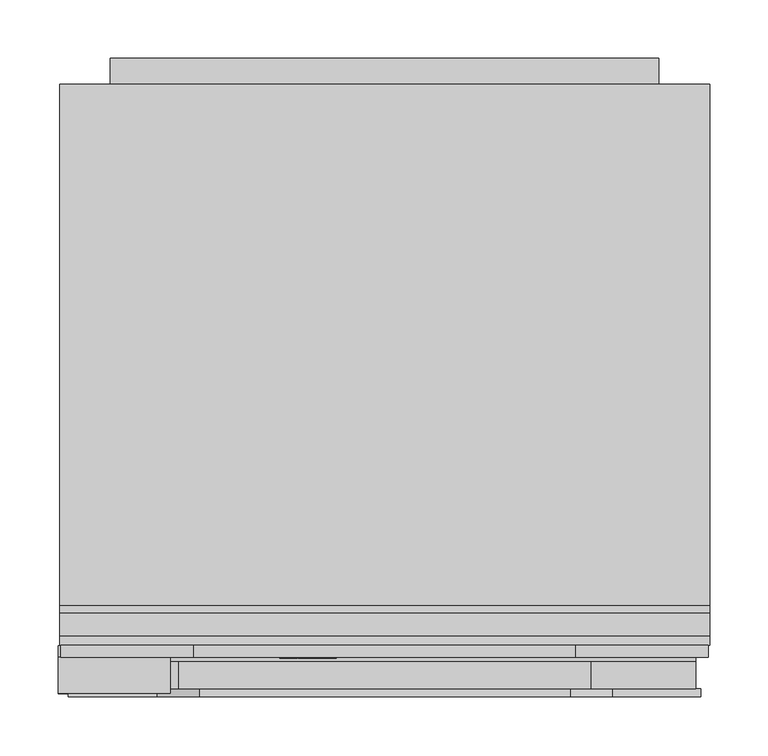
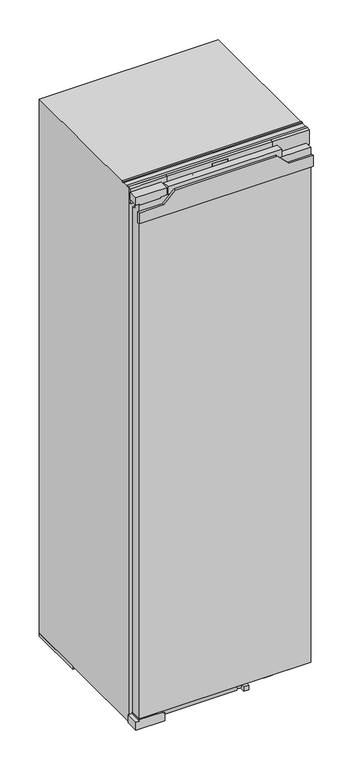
"""IFC4 building model written with IfcOpenShell, lengths in millimetres: proxy geometry, 12444960_CH_K7778C_LI : 36777801_CH_12444960_K7778C_LI."""

import ifcopenshell
import ifcopenshell.guid

model = None  # the IFC model being written
_history = None  # IfcOwnerHistory: only IFC2X3 demands one
_inside = {}  # id of a spatial element -> (the spatial element, [elements in it])
_under = {}  # id of a project, library or spatial element -> (it, [spatial elements below it])
_declared = {}  # id of a project -> (the project, [libraries it declares])
_typed = {}  # id of a type object -> (the type object, [elements of that type])
_made_of = {}  # id of a material, layer set ... -> (it, [elements and type objects made of it])


def new_model(schema):
    """Start an empty IFC model of exactly this schema.

    Asked for "IFC4X3", IfcOpenShell would pick the latest addendum, in which some entities
    have other attributes; the version numbers below select the first issue.
    IFC2X3 requires an IfcOwnerHistory on every rooted entity: one is made here for all.
    """
    global model, _history
    if schema == "IFC4X3":
        model = ifcopenshell.file(schema_version=(4, 3, 0, 0))
    else:
        model = ifcopenshell.file(schema=schema)
    _inside.clear()
    _under.clear()
    _declared.clear()
    _typed.clear()
    _made_of.clear()
    _history = None
    if model.schema == "IFC2X3":
        org = make("IfcOrganization", Name="unknown")
        user = make(
            "IfcPersonAndOrganization",
            ThePerson=make("IfcPerson", FamilyName="unknown"),
            TheOrganization=org,
        )
        app = make(
            "IfcApplication",
            ApplicationDeveloper=org,
            Version="unknown",
            ApplicationFullName="unknown",
            ApplicationIdentifier="unknown",
        )
        _history = make(
            "IfcOwnerHistory",
            OwningUser=user,
            OwningApplication=app,
            ChangeAction="ADDED",
            CreationDate=0,
        )
    return model


def make(cls, **values):
    """One entity of the class cls with the attributes given. An attribute that is None is left unset."""
    return model.create_entity(
        cls, **{name: value for name, value in values.items() if value is not None}
    )


def rooted(cls, **values):
    """An entity with a GlobalId (a new one), such as an element, a storey or a relation."""
    return make(cls, GlobalId=ifcopenshell.guid.new(), OwnerHistory=_history, **values)


def si_unit(unit_type, name, prefix=None):
    """IfcSIUnit, for example si_unit("LENGTHUNIT", "METRE", prefix="MILLI")."""
    return make("IfcSIUnit", UnitType=unit_type, Prefix=prefix, Name=name)


def assignment(units):
    """IfcUnitAssignment: the units of a project."""
    return None if units is None else make("IfcUnitAssignment", Units=units)


def point(xyz):
    """IfcCartesianPoint."""
    return None if xyz is None else make("IfcCartesianPoint", Coordinates=xyz)


def direction(xyz):
    """IfcDirection."""
    return None if xyz is None else make("IfcDirection", DirectionRatios=xyz)


def frame(location, z_axis=None, x_axis=None):
    """IfcAxis2Placement3D, a coordinate frame: its origin and axes. An axis left out is left unset."""
    return make(
        "IfcAxis2Placement3D",
        Location=point(location),
        Axis=direction(z_axis),
        RefDirection=direction(x_axis),
    )


def frame_2d(location, x_axis=None):
    """IfcAxis2Placement2D, a coordinate frame in the plane: its origin and x axis."""
    return make(
        "IfcAxis2Placement2D", Location=point(location), RefDirection=direction(x_axis)
    )


def origin():
    """The frame at (0, 0, 0) with its axes left unset."""
    return frame((0.0, 0.0, 0.0))


def origin_with_axes():
    """The frame at (0, 0, 0) with the z axis (0, 0, 1) and the x axis (1, 0, 0) written out."""
    return frame((0.0, 0.0, 0.0), z_axis=(0.0, 0.0, 1.0), x_axis=(1.0, 0.0, 0.0))


def place(relative_to, where):
    """IfcLocalPlacement: puts the frame where relative to a parent placement (None: the world)."""
    return make(
        "IfcLocalPlacement", PlacementRelTo=relative_to, RelativePlacement=where
    )


def context(
    kind, dimensions, precision=None, world=None, true_north=None, identifier=None
):
    """IfcGeometricRepresentationContext, for example the 3D "Model" context."""
    return make(
        "IfcGeometricRepresentationContext",
        ContextIdentifier=identifier,
        ContextType=kind,
        CoordinateSpaceDimension=dimensions,
        Precision=precision,
        WorldCoordinateSystem=world,
        TrueNorth=true_north,
    )


def project(units=None, contexts=None):
    """IfcProject with its units and contexts."""
    return rooted(
        "IfcProject",
        Name="project",
        RepresentationContexts=contexts,
        UnitsInContext=assignment(units),
    )


def spatial(cls, under=None, at=None, **own):
    """A site, building, storey or space (cls), placed at a placement, below another one or the project."""
    s = rooted(cls, ObjectPlacement=at, **own)
    if under is not None:
        _under.setdefault(under.id(), (under, []))[1].append(s)
    return s


def polyline(points):
    """IfcPolyline through the points."""
    return make("IfcPolyline", Points=[point(p) for p in points])


def circle_curve(where, radius):
    """IfcCircle in the frame where."""
    return make("IfcCircle", Position=where, Radius=radius)


def ellipse_curve(where, semi_axis1, semi_axis2):
    """IfcEllipse in the frame where."""
    return make(
        "IfcEllipse", Position=where, SemiAxis1=semi_axis1, SemiAxis2=semi_axis2
    )


def trimmed(basis, trim1, trim2, sense, master):
    """IfcTrimmedCurve: the piece of a basis curve between two trims."""
    return make(
        "IfcTrimmedCurve",
        BasisCurve=basis,
        Trim1=trim1,
        Trim2=trim2,
        SenseAgreement=sense,
        MasterRepresentation=master,
    )


def segment(curve, same_sense, transition):
    """IfcCompositeCurveSegment."""
    return make(
        "IfcCompositeCurveSegment",
        Transition=transition,
        SameSense=same_sense,
        ParentCurve=curve,
    )


def composite_curve(segments, self_intersect=None):
    """IfcCompositeCurve: segments joined end to end."""
    return make("IfcCompositeCurve", Segments=segments, SelfIntersect=self_intersect)


def outline(outer, holes=None, kind="AREA"):
    """IfcArbitraryClosedProfileDef: a profile drawn as a closed curve; with holes, ...WithVoids."""
    if holes is None:
        return make("IfcArbitraryClosedProfileDef", ProfileType=kind, OuterCurve=outer)
    return make(
        "IfcArbitraryProfileDefWithVoids",
        ProfileType=kind,
        OuterCurve=outer,
        InnerCurves=holes,
    )


def extrude(swept, where, along, depth):
    """IfcExtrudedAreaSolid: the profile swept, set in the frame where, extruded along a direction by depth."""
    return make(
        "IfcExtrudedAreaSolid",
        SweptArea=swept,
        Position=where,
        ExtrudedDirection=direction(along),
        Depth=depth,
    )


def faces_of(points, faces, orient=None, outer=None):
    """IfcFace entities. A face is a list of loops; a loop is a list of indices into points, from 0.

    orient and outer hold one flag for each loop. By default every Orientation is true, the
    first loop of a face is its IfcFaceOuterBound and the others are IfcFaceBound.
    """
    made = []
    for i, loops in enumerate(faces):
        bounds = []
        for j, loop in enumerate(loops):
            is_outer = j == 0 if outer is None else outer[i][j]
            bounds.append(
                make(
                    "IfcFaceOuterBound" if is_outer else "IfcFaceBound",
                    Bound=make("IfcPolyLoop", Polygon=[points[k] for k in loop]),
                    Orientation=True if orient is None else orient[i][j],
                )
            )
        made.append(make("IfcFace", Bounds=bounds))
    return made


def faceted_brep(points, faces, orient=None, outer=None, voids=None):
    """IfcFacetedBrep: a solid bounded by flat faces; with voids (closed shells), ...WithVoids."""
    shared = [point(p) for p in points]
    hull = make("IfcClosedShell", CfsFaces=faces_of(shared, faces, orient, outer))
    if voids is None:
        return make("IfcFacetedBrep", Outer=hull)
    return make(
        "IfcFacetedBrepWithVoids",
        Outer=hull,
        Voids=[
            make(cls, CfsFaces=faces_of(shared, fs, o, b)) for cls, fs, o, b in voids
        ],
    )


def shape(context_of_items, identifier, shape_type, items):
    """IfcShapeRepresentation: the items that make up one representation, for example the "Body"."""
    return make(
        "IfcShapeRepresentation",
        ContextOfItems=context_of_items,
        RepresentationIdentifier=identifier,
        RepresentationType=shape_type,
        Items=items,
    )


def source(mapping_origin, context_of_items, identifier, shape_type, items):
    """IfcRepresentationMap: a shape defined once, which mapped items show again and again."""
    return make(
        "IfcRepresentationMap",
        MappingOrigin=mapping_origin,
        MappedRepresentation=shape(context_of_items, identifier, shape_type, items),
    )


def transform(
    local_origin,
    x_axis=None,
    y_axis=None,
    z_axis=None,
    scale=None,
    scale2=None,
    scale3=None,
    uniform=True,
):
    """IfcCartesianTransformationOperator3D, or its non-uniform kind. x_axis, y_axis, z_axis: its Axis1, 2, 3."""
    if uniform:
        return make(
            "IfcCartesianTransformationOperator3D",
            Axis1=direction(x_axis),
            Axis2=direction(y_axis),
            LocalOrigin=point(local_origin),
            Scale=scale,
            Axis3=direction(z_axis),
        )
    return make(
        "IfcCartesianTransformationOperator3DnonUniform",
        Axis1=direction(x_axis),
        Axis2=direction(y_axis),
        LocalOrigin=point(local_origin),
        Scale=scale,
        Axis3=direction(z_axis),
        Scale2=scale2,
        Scale3=scale3,
    )


def mapped(mapping_source, mapping_target):
    """IfcMappedItem: shows the shape of a source again, moved by a transform."""
    return make(
        "IfcMappedItem", MappingSource=mapping_source, MappingTarget=mapping_target
    )


def made_of(thing, what):
    """Note that an element or type object is made of a material, layer set ...; save() writes the relation."""
    if what is not None:
        _made_of.setdefault(what.id(), (what, []))[1].append(thing)
    return thing


def element(
    cls,
    number,
    at=None,
    inside=None,
    cuts=None,
    type_object=None,
    material=None,
    context=None,
    identifier="Body",
    shape_type=None,
    held_by="IfcProductDefinitionShape",
    body=None,
    shapes=None,
    **own,
):
    """One element of the class cls, such as IfcWall. Its Tag is "e" and its number.

    at: its placement. inside: the storey or other place that contains it. cuts: it is an
    opening in that element (IfcRelVoidsElement). A single representation is given by context,
    identifier, shape_type and body (its items); several are given by shapes. held_by: the class
    of the entity that holds the representations. save() writes the other relations.
    """
    e = rooted(cls, Tag="e%d" % number, ObjectPlacement=at, **own)
    if body is not None:
        shapes = [shape(context, identifier, shape_type, body)]
    if shapes is not None:
        e.Representation = make(held_by, Representations=shapes)
    if inside is not None:
        _inside.setdefault(inside.id(), (inside, []))[1].append(e)
    if cuts is not None:
        rooted(
            "IfcRelVoidsElement", RelatingBuildingElement=cuts, RelatedOpeningElement=e
        )
    if type_object is not None:
        _typed.setdefault(type_object.id(), (type_object, []))[1].append(e)
    return made_of(e, material)


def aggregate(whole, parts):
    """IfcRelAggregates: a whole, such as a stair, and the parts it consists of."""
    return rooted("IfcRelAggregates", RelatingObject=whole, RelatedObjects=parts)


def save(model, path):
    """Write the relations noted so far, then the file.

    IfcRelAggregates (storeys below a building ...), IfcRelContainedInSpatialStructure (elements
    in a storey), IfcRelDefinesByType, IfcRelAssociatesMaterial and IfcRelDeclares: one each for
    every whole, place, type object, material and project.
    """
    for whole, parts in _under.values():
        aggregate(whole, parts)
    for where, things in _inside.values():
        rooted(
            "IfcRelContainedInSpatialStructure",
            RelatedElements=things,
            RelatingStructure=where,
        )
    for kind, things in _typed.values():
        rooted("IfcRelDefinesByType", RelatedObjects=things, RelatingType=kind)
    for what, things in _made_of.values():
        rooted("IfcRelAssociatesMaterial", RelatedObjects=things, RelatingMaterial=what)
    for by, libraries in _declared.values():
        rooted("IfcRelDeclares", RelatingContext=by, RelatedDefinitions=libraries)
    model.write(path)


def plane_surface(at):
    """IfcPlane: the flat surface through the origin of the frame at, square to its z axis."""
    return make("IfcPlane", Position=at)


def cylinder_surface(at, radius):
    """IfcCylindricalSurface: all points at the distance radius from the z axis of the frame at."""
    return make("IfcCylindricalSurface", Position=at, Radius=radius)


def revolved_surface(curve, axis_point, axis_direction):
    """IfcSurfaceOfRevolution: the curve turned about the line through axis_point along axis_direction."""
    return make(
        "IfcSurfaceOfRevolution",
        SweptCurve=make("IfcArbitraryOpenProfileDef", ProfileType="CURVE", Curve=curve),
        AxisPosition=make("IfcAxis1Placement", Location=point(axis_point), Axis=direction(axis_direction)),
    )


def extruded_surface(curve, direction_of_extrusion, depth):
    """IfcSurfaceOfLinearExtrusion: the curve pushed along a direction by depth."""
    return make(
        "IfcSurfaceOfLinearExtrusion",
        SweptCurve=make("IfcArbitraryOpenProfileDef", ProfileType="CURVE", Curve=curve),
        ExtrudedDirection=direction(direction_of_extrusion),
        Depth=depth,
    )


def advanced_brep(points, edges, surfaces, faces):
    """IfcAdvancedBrep: a solid bounded by faces that lie on surfaces and meet in shared edges.

    An edge is (start, end): straight between two places in points (the first is 0);
    or (start, end, curve); or (start, end, curve, False) where it runs against its curve.
    A face is (place in surfaces, loops), or (place, loops, False) where it looks against
    its surface's normal. A loop lists edges by number (the first is 1), with a minus sign
    where the edge is run from its end to its start. The first loop is the outer one.
    """
    corners = [point(p) for p in points]
    vertices = [make("IfcVertexPoint", VertexGeometry=c) for c in corners]
    made = []
    for start, end, *more in edges:
        made.append(
            make(
                "IfcEdgeCurve",
                EdgeStart=vertices[start],
                EdgeEnd=vertices[end],
                EdgeGeometry=more[0] if more else make("IfcPolyline", Points=[corners[start], corners[end]]),
                SameSense=more[1] if len(more) > 1 else True,
            )
        )
    hull = []
    for where, loops, *sense in faces:
        bounds = []
        for j, loop in enumerate(loops):
            ring = [make("IfcOrientedEdge", EdgeElement=made[abs(k) - 1], Orientation=k > 0) for k in loop]
            bounds.append(
                make(
                    "IfcFaceOuterBound" if j == 0 else "IfcFaceBound",
                    Bound=make("IfcEdgeLoop", EdgeList=ring),
                    Orientation=True,
                )
            )
        hull.append(make("IfcAdvancedFace", Bounds=bounds, FaceSurface=surfaces[where], SameSense=sense[0] if sense else True))
    return make("IfcAdvancedBrep", Outer=make("IfcClosedShell", CfsFaces=hull))


def specialty_equipment_adff1d91(model_context):
    return source(origin(), model_context, "Body", "SolidModel", [
        advanced_brep(
        [(-46.64, 33.0, 1742.896), (-46.64, 33.0, 1743.704), (-41.288, 33.0, 1743.704), (-50.6, 33.0, 1743.704), (-48.4, 33.0, 1741.0), (-41.424, 33.0, 1742.896), (-43.84, 33.0, 1742.896), (-45.744, 33.0, 1742.0), (-46.64, 33.0, 1744.728), (-46.64, 33.0, 1745.6), (-45.272, 33.0, 1745.6), (-45.272, 33.0, 1744.728), (-46.64, 34.0, 1742.896), (-45.744, 34.0, 1742.0), (-43.84, 34.0, 1742.896), (-41.424, 34.0, 1742.896), (-48.4, 34.0, 1741.0), (-50.6, 34.0, 1743.704), (-41.288, 34.0, 1743.704), (-46.64, 34.0, 1743.704), (-46.64, 34.0, 1744.728), (-45.272, 34.0, 1744.728), (-45.272, 34.0, 1745.6), (-46.64, 34.0, 1745.6)],
        [
            (0, 1),
            (1, 2),
            (2, 3, ellipse_curve(frame((-45.944, 33.0, 1743.704), z_axis=(0.0, -1.0, 0.0), x_axis=(-1.0, 0.0, 0.0)), 4.656, 3.848)),
            (3, 4, circle_curve(frame((-47.5039564, 33.0, 1743.976), z_axis=(0.0, -1.0, 0.0), x_axis=(0.0, 0.0, -1.0)), 3.1079688)),
            (4, 5, circle_curve(frame((-46.0372064, 33.0, 1746.088), z_axis=(0.0, -1.0, 0.0), x_axis=(0.0, 0.0, -1.0)), 5.6098607)),
            (5, 6),
            (6, 7, circle_curve(frame((-45.3529412, 33.0, 1743.64), z_axis=(0.0, 1.0, 0.0), x_axis=(0.0, 0.0, -1.0)), 1.6859795)),
            (7, 0, circle_curve(frame((-45.744, 33.0, 1742.896), z_axis=(0.0, 1.0, 0.0), x_axis=(0.0, 0.0, -1.0)), 0.896)),
            (8, 9),
            (9, 10, circle_curve(frame((-45.956, 33.0, 1745.6), z_axis=(0.0, 1.0, 0.0), x_axis=(0.0, 0.0, -1.0)), 0.684)),
            (10, 11),
            (11, 8),
            (12, 13, circle_curve(frame((-45.744, 34.0, 1742.896), z_axis=(0.0, -1.0, 0.0), x_axis=(0.0, 0.0, -1.0)), 0.896)),
            (13, 14, circle_curve(frame((-45.3529412, 34.0, 1743.64), z_axis=(0.0, -1.0, 0.0), x_axis=(0.0, 0.0, -1.0)), 1.6859795)),
            (14, 15),
            (15, 16, circle_curve(frame((-46.0372064, 34.0, 1746.088), z_axis=(0.0, 1.0, 0.0), x_axis=(0.0, 0.0, -1.0)), 5.6098607)),
            (16, 17, circle_curve(frame((-47.5039564, 34.0, 1743.976), z_axis=(0.0, 1.0, 0.0), x_axis=(0.0, 0.0, -1.0)), 3.1079688)),
            (17, 18, ellipse_curve(frame((-45.944, 34.0, 1743.704), z_axis=(0.0, 1.0, 0.0), x_axis=(-1.0, 0.0, 0.0)), 4.656, 3.848)),
            (18, 19),
            (19, 12),
            (20, 21),
            (21, 22),
            (22, 23, circle_curve(frame((-45.956, 34.0, 1745.6), z_axis=(0.0, -1.0, 0.0), x_axis=(0.0, 0.0, -1.0)), 0.684)),
            (23, 20),
            (0, 12),
            (19, 1),
            (18, 2),
            (5, 15),
            (14, 6),
            (17, 3),
            (13, 7),
            (16, 4),
            (8, 20),
            (23, 9),
            (22, 10),
            (21, 11),
        ],
        [
            plane_surface(frame((-46.64, 33.0, 1743.704), z_axis=(0.0, -1.0, 0.0), x_axis=(0.0, 0.0, 1.0))),
            plane_surface(frame((-46.64, 34.0, 1743.704), z_axis=(0.0, 1.0, 0.0), x_axis=(0.0, 0.0, -1.0))),
            plane_surface(frame((-46.64, 33.0, 1742.896), z_axis=(1.0, 0.0, 0.0), x_axis=(0.0, 1.0, 0.0))),
            plane_surface(frame((-46.64, 33.0, 1743.704), z_axis=(0.0, 0.0, -1.0), x_axis=(0.0, 1.0, 0.0))),
            plane_surface(frame((-41.424, 33.0, 1742.896), z_axis=(0.0, 0.0, 1.0), x_axis=(0.0, 1.0, 0.0))),
            extruded_surface(trimmed(ellipse_curve(frame((-45.944, 35.0, 1743.704), z_axis=(0.0, -1.0, 0.0), x_axis=(-1.0, 0.0, 0.0)), 4.656, 3.848), [point((-41.288, 35.0, 1743.704))], [point((-50.6, 35.0, 1743.704))], True, "CARTESIAN"), (0.0, -1.0, 0.0), 1.0),
            revolved_surface(polyline([(-45.3529412, 34.0, 1741.9540205), (-45.3529412, 33.0, 1741.9540205)]), (-45.3529412, 34.0, 1743.64), (0.0, 1.0, 0.0)),
            revolved_surface(polyline([(-45.744, 34.0, 1742.0), (-45.744, 33.0, 1742.0)]), (-45.744, 34.0, 1742.896), (0.0, 1.0, 0.0)),
            cylinder_surface(frame((-47.5039564, 34.0, 1743.976), z_axis=(0.0, -1.0, 0.0), x_axis=(0.0, 0.0, -1.0)), 3.1079688),
            cylinder_surface(frame((-46.0372064, 34.0, 1746.088), z_axis=(0.0, -1.0, 0.0), x_axis=(0.0, 0.0, -1.0)), 5.6098607),
            plane_surface(frame((-46.64, 33.0, 1744.728), z_axis=(1.0, 0.0, 0.0), x_axis=(0.0, 1.0, 0.0))),
            revolved_surface(polyline([(-45.956, 34.0, 1744.916), (-45.956, 33.0, 1744.916)]), (-45.956, 34.0, 1745.6), (0.0, 1.0, 0.0)),
            plane_surface(frame((-45.272, 33.0, 1745.6), z_axis=(-1.0, 0.0, 0.0), x_axis=(0.0, 1.0, 0.0))),
            plane_surface(frame((-45.272, 33.0, 1744.728), z_axis=(0.0, 0.0, 1.0), x_axis=(0.0, 1.0, 0.0))),
        ],
        [
            (0, [[1, 2, 3, 4, 5, 6, 7, 8], [9, 10, 11, 12]]),
            (1, [[13, 14, 15, 16, 17, 18, 19, 20], [21, 22, 23, 24]]),
            (2, [[-1, 25, -20, 26]]),
            (3, [[-2, -26, -19, 27]]),
            (4, [[-6, 28, -15, 29]]),
            (5, [[-3, -27, -18, 30]]),
            (6, [[-7, -29, -14, 31]]),
            (7, [[-8, -31, -13, -25]]),
            (8, [[-4, -30, -17, 32]]),
            (9, [[-5, -32, -16, -28]]),
            (10, [[-9, 33, -24, 34]]),
            (11, [[-10, -34, -23, 35]]),
            (12, [[-11, -35, -22, 36]]),
            (13, [[-12, -36, -21, -33]]),
        ],
    ),
        advanced_brep(
        [(-63.336, 33.0, 1742.896), (-63.336, 33.0, 1743.704), (-57.984, 33.0, 1743.704), (-67.296, 33.0, 1743.704), (-65.096, 33.0, 1741.0), (-58.12, 33.0, 1742.896), (-60.536, 33.0, 1742.896), (-62.44, 33.0, 1742.0), (-63.336, 33.0, 1744.728), (-63.336, 33.0, 1745.6), (-61.968, 33.0, 1745.6), (-61.968, 33.0, 1744.728), (-63.336, 34.0, 1742.896), (-62.44, 34.0, 1742.0), (-60.536, 34.0, 1742.896), (-58.12, 34.0, 1742.896), (-65.096, 34.0, 1741.0), (-67.296, 34.0, 1743.704), (-57.984, 34.0, 1743.704), (-63.336, 34.0, 1743.704), (-63.336, 34.0, 1744.728), (-61.968, 34.0, 1744.728), (-61.968, 34.0, 1745.6), (-63.336, 34.0, 1745.6)],
        [
            (0, 1),
            (1, 2),
            (2, 3, ellipse_curve(frame((-62.64, 33.0, 1743.704), z_axis=(0.0, -1.0, 0.0), x_axis=(-1.0, 0.0, 0.0)), 4.656, 3.848)),
            (3, 4, circle_curve(frame((-64.1999564, 33.0, 1743.976), z_axis=(0.0, -1.0, 0.0), x_axis=(0.0, 0.0, -1.0)), 3.1079688)),
            (4, 5, circle_curve(frame((-62.7332064, 33.0, 1746.088), z_axis=(0.0, -1.0, 0.0), x_axis=(0.0, 0.0, -1.0)), 5.6098607)),
            (5, 6),
            (6, 7, circle_curve(frame((-62.0489412, 33.0, 1743.64), z_axis=(0.0, 1.0, 0.0), x_axis=(0.0, 0.0, -1.0)), 1.6859795)),
            (7, 0, circle_curve(frame((-62.44, 33.0, 1742.896), z_axis=(0.0, 1.0, 0.0), x_axis=(0.0, 0.0, -1.0)), 0.896)),
            (8, 9),
            (9, 10, circle_curve(frame((-62.652, 33.0, 1745.6), z_axis=(0.0, 1.0, 0.0), x_axis=(0.0, 0.0, -1.0)), 0.684)),
            (10, 11),
            (11, 8),
            (12, 13, circle_curve(frame((-62.44, 34.0, 1742.896), z_axis=(0.0, -1.0, 0.0), x_axis=(0.0, 0.0, -1.0)), 0.896)),
            (13, 14, circle_curve(frame((-62.0489412, 34.0, 1743.64), z_axis=(0.0, -1.0, 0.0), x_axis=(0.0, 0.0, -1.0)), 1.6859795)),
            (14, 15),
            (15, 16, circle_curve(frame((-62.7332064, 34.0, 1746.088), z_axis=(0.0, 1.0, 0.0), x_axis=(0.0, 0.0, -1.0)), 5.6098607)),
            (16, 17, circle_curve(frame((-64.1999564, 34.0, 1743.976), z_axis=(0.0, 1.0, 0.0), x_axis=(0.0, 0.0, -1.0)), 3.1079688)),
            (17, 18, ellipse_curve(frame((-62.64, 34.0, 1743.704), z_axis=(0.0, 1.0, 0.0), x_axis=(-1.0, 0.0, 0.0)), 4.656, 3.848)),
            (18, 19),
            (19, 12),
            (20, 21),
            (21, 22),
            (22, 23, circle_curve(frame((-62.652, 34.0, 1745.6), z_axis=(0.0, -1.0, 0.0), x_axis=(0.0, 0.0, -1.0)), 0.684)),
            (23, 20),
            (0, 12),
            (19, 1),
            (18, 2),
            (5, 15),
            (14, 6),
            (17, 3),
            (13, 7),
            (16, 4),
            (8, 20),
            (23, 9),
            (22, 10),
            (21, 11),
        ],
        [
            plane_surface(frame((-63.336, 33.0, 1743.704), z_axis=(0.0, -1.0, 0.0), x_axis=(0.0, 0.0, 1.0))),
            plane_surface(frame((-63.336, 34.0, 1743.704), z_axis=(0.0, 1.0, 0.0), x_axis=(0.0, 0.0, -1.0))),
            plane_surface(frame((-63.336, 33.0, 1742.896), z_axis=(1.0, 0.0, 0.0), x_axis=(0.0, 1.0, 0.0))),
            plane_surface(frame((-63.336, 33.0, 1743.704), z_axis=(0.0, 0.0, -1.0), x_axis=(0.0, 1.0, 0.0))),
            plane_surface(frame((-58.12, 33.0, 1742.896), z_axis=(0.0, 0.0, 1.0), x_axis=(0.0, 1.0, 0.0))),
            extruded_surface(trimmed(ellipse_curve(frame((-62.64, 35.0, 1743.704), z_axis=(0.0, -1.0, 0.0), x_axis=(-1.0, 0.0, 0.0)), 4.656, 3.848), [point((-57.984, 35.0, 1743.704))], [point((-67.296, 35.0, 1743.704))], True, "CARTESIAN"), (0.0, -1.0, 0.0), 1.0),
            revolved_surface(polyline([(-62.0489412, 34.0, 1741.9540205), (-62.0489412, 33.0, 1741.9540205)]), (-62.0489412, 34.0, 1743.64), (0.0, 1.0, 0.0)),
            revolved_surface(polyline([(-62.44, 34.0, 1742.0), (-62.44, 33.0, 1742.0)]), (-62.44, 34.0, 1742.896), (0.0, 1.0, 0.0)),
            cylinder_surface(frame((-64.1999564, 34.0, 1743.976), z_axis=(0.0, -1.0, 0.0), x_axis=(0.0, 0.0, -1.0)), 3.1079688),
            cylinder_surface(frame((-62.7332064, 34.0, 1746.088), z_axis=(0.0, -1.0, 0.0), x_axis=(0.0, 0.0, -1.0)), 5.6098607),
            plane_surface(frame((-63.336, 33.0, 1744.728), z_axis=(1.0, 0.0, 0.0), x_axis=(0.0, 1.0, 0.0))),
            revolved_surface(polyline([(-62.652, 34.0, 1744.916), (-62.652, 33.0, 1744.916)]), (-62.652, 34.0, 1745.6), (0.0, 1.0, 0.0)),
            plane_surface(frame((-61.968, 33.0, 1745.6), z_axis=(-1.0, 0.0, 0.0), x_axis=(0.0, 1.0, 0.0))),
            plane_surface(frame((-61.968, 33.0, 1744.728), z_axis=(0.0, 0.0, 1.0), x_axis=(0.0, 1.0, 0.0))),
        ],
        [
            (0, [[1, 2, 3, 4, 5, 6, 7, 8], [9, 10, 11, 12]]),
            (1, [[13, 14, 15, 16, 17, 18, 19, 20], [21, 22, 23, 24]]),
            (2, [[-1, 25, -20, 26]]),
            (3, [[-2, -26, -19, 27]]),
            (4, [[-6, 28, -15, 29]]),
            (5, [[-3, -27, -18, 30]]),
            (6, [[-7, -29, -14, 31]]),
            (7, [[-8, -31, -13, -25]]),
            (8, [[-4, -30, -17, 32]]),
            (9, [[-5, -32, -16, -28]]),
            (10, [[-9, 33, -24, 34]]),
            (11, [[-10, -34, -23, 35]]),
            (12, [[-11, -35, -22, 36]]),
            (13, [[-12, -36, -21, -33]]),
        ],
    ),
        extrude(outline(polyline([(1748.528, -72.08), (1747.232, -71.472), (1748.496, -68.76), (1749.792, -69.36), (1748.528, -72.08)])), frame((0.0, 33.0, 0.0), z_axis=(0.0, 1.0, 0.0), x_axis=(0.0, 0.0, 1.0)), (0.0, 0.0, 1.0), 1.0),
        extrude(outline(polyline([(1747.056, -74.056), (1745.624, -74.056), (1745.624, -73.104), (1742.344, -73.104), (1742.344, -74.056), (1741.0, -74.056), (1741.0, -67.744), (1742.344, -67.744), (1742.344, -68.672), (1747.056, -68.672), (1747.056, -74.056)])), frame((0.0, 33.0, 0.0), z_axis=(0.0, 1.0, 0.0), x_axis=(0.0, 0.0, 1.0)), (0.0, 0.0, 1.0), 1.0),
        extrude(outline(polyline([(1747.696, -57.536), (1747.696, -56.576), (1742.344, -56.576), (1742.344, -57.536), (1741.0, -57.536), (1741.0, -51.048), (1742.344, -51.048), (1742.344, -52.032), (1749.0, -52.032), (1749.0, -57.536), (1747.696, -57.536)])), frame((0.0, 33.0, 0.0), z_axis=(0.0, 1.0, 0.0), x_axis=(0.0, 0.0, 1.0)), (0.0, 0.0, 1.0), 1.0),
        extrude(outline(polyline([(1747.696, -90.0), (1747.696, -89.032), (1742.344, -89.032), (1742.344, -90.0), (1741.0, -90.0), (1741.0, -86.48), (1742.344, -86.48), (1742.344, -87.44), (1745.7471247, -87.44), (1741.0, -83.864), (1745.8152223, -80.272), (1742.344, -80.272), (1742.344, -81.256), (1741.0, -81.256), (1741.0, -74.872), (1742.344, -74.872), (1742.344, -75.888), (1747.696, -75.888), (1747.696, -74.872), (1749.0, -74.872), (1749.0, -79.744), (1746.0, -82.08), (1749.0, -84.424), (1749.0, -90.0), (1747.696, -90.0)])), frame((0.0, 33.0, 0.0), z_axis=(0.0, 1.0, 0.0), x_axis=(0.0, 0.0, 1.0)), (0.0, 0.0, 1.0), 1.0),
        faceted_brep([(163.5, 34.0, 1770.0), (-163.5, 34.0, 1770.0), (-163.5, 34.0, 1721.0), (163.5, 34.0, 1721.0), (24.5, 34.0, 1763.0), (24.5, 34.0, 1727.0), (-24.5, 34.0, 1727.0), (-24.5, 34.0, 1763.0), (163.5, 44.0, 1770.0), (163.5, 44.0, 1721.0), (-163.5, 44.0, 1721.0), (-163.5, 44.0, 1770.0), (24.5, 35.0, 1763.0), (-24.5, 35.0, 1763.0), (-24.5, 35.0, 1727.0), (24.5, 35.0, 1727.0)], [[[0, 1, 2, 3], [4, 5, 6, 7]], [[8, 9, 10, 11]], [[0, 3, 9, 8]], [[3, 2, 10, 9]], [[2, 1, 11, 10]], [[1, 0, 8, 11]], [[12, 13, 14, 15]], [[12, 15, 5, 4]], [[15, 14, 6, 5]], [[14, 13, 7, 6]], [[13, 12, 4, 7]]]),
        extrude(outline(polyline([(163.5, 44.0), (277.5, 44.0), (277.5, 34.0), (163.5, 34.0), (163.5, 44.0)])), frame((0.0, 0.0, 1721.0), z_axis=(0.0, 0.0, 1.0), x_axis=(1.0, 0.0, 0.0)), (0.0, 0.0, 1.0), 49.0),
        extrude(outline(polyline([(-277.5, 44.0), (-163.5, 44.0), (-163.5, 34.0), (-277.5, 34.0), (-277.5, 44.0)])), frame((0.0, 0.0, 1721.0), z_axis=(0.0, 0.0, 1.0), x_axis=(1.0, 0.0, 0.0)), (0.0, 0.0, 1.0), 49.0),
        extrude(outline(polyline([(-24.5, 35.0), (24.5, 35.0), (24.5, 34.0), (-24.5, 34.0), (-24.5, 35.0)])), frame((0.0, 0.0, 1727.0), z_axis=(0.0, 0.0, 1.0), x_axis=(1.0, 0.0, 0.0)), (0.0, 0.0, 1.0), 36.0),
        extrude(outline(polyline([(1647.0, -235.0), (27.0, -235.0), (27.0, 235.0), (130.0, 235.0), (130.0, 170.0), (160.0, 170.0), (160.0, 235.0), (1647.0, 235.0), (1647.0, -235.0)])), frame((0.0, 525.0, 0.0), z_axis=(0.0, 1.0, 0.0), x_axis=(0.0, 0.0, 1.0)), (0.0, 0.0, 1.0), 22.0),
        extrude(outline(polyline([(-144.929185, 52.0), (-174.0, 52.0), (-194.4885559, 345.0), (-165.4177409, 345.0), (-144.929185, 52.0)])), origin_with_axes(), (0.0, 0.0, 1.0), 10.0),
        extrude(outline(polyline([(144.929185, 52.0), (165.4177409, 345.0), (194.4885559, 345.0), (174.0, 52.0), (144.929185, 52.0)])), origin_with_axes(), (0.0, 0.0, 1.0), 10.0),
        extrude(outline(polyline([(538.651012, 148.8988246), (538.651012, 150.150839), (545.8850603, 150.150839), (545.8850603, 140.1043073), (538.5027529, 140.1043073), (538.5027529, 141.3585545), (544.6152499, 141.3585545), (544.6152499, 144.6556887), (538.967462, 144.6556887), (538.967462, 145.9162842), (544.6270824, 145.9162842), (544.6270824, 148.8988246), (538.651012, 148.8988246)])), frame((193.5, 0.0, 0.0), z_axis=(1.0, 0.0, 0.0), x_axis=(0.0, 1.0, 0.0)), (0.0, 0.0, 1.0), 1.0),
        extrude(outline(polyline([(536.624075, 150.150839), (536.624075, 140.1043073), (530.3334819, 140.1043073), (530.3334819, 141.3573374), (535.3334819, 141.3573374), (535.3334819, 150.150839), (536.624075, 150.150839)])), frame((193.5, 0.0, 0.0), z_axis=(1.0, 0.0, 0.0), x_axis=(0.0, 1.0, 0.0)), (0.0, 0.0, 1.0), 1.0),
        advanced_brep(
        [(232.0, 525.0, 145.0), (217.0, 525.0, 145.0), (232.0, 546.5, 145.0), (217.0, 531.5, 145.0), (194.5, 546.5, 145.0), (194.5, 531.5, 145.0)],
        [
            (0, 1, circle_curve(frame((224.5, 525.0, 145.0), z_axis=(0.0, -1.0, 0.0), x_axis=(-1.0, 0.0, 0.0)), 7.5)),
            (1, 0, circle_curve(frame((224.5, 525.0, 145.0), z_axis=(0.0, -1.0, 0.0), x_axis=(-1.0, 0.0, 0.0)), 7.5)),
            (0, 2),
            (2, 3, ellipse_curve(frame((224.5, 539.0, 145.0), z_axis=(0.7071067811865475, -0.7071067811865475, 0.0), x_axis=(-0.7071067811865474, -0.7071067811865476, 0.0)), 10.6066017, 7.5)),
            (3, 1),
            (3, 2, ellipse_curve(frame((224.5, 539.0, 145.0), z_axis=(0.7071067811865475, -0.7071067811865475, 0.0), x_axis=(-0.7071067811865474, -0.7071067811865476, 0.0)), 10.6066017, 7.5)),
            (4, 5, circle_curve(frame((194.5, 539.0, 145.0), z_axis=(-1.0, 0.0, 0.0), x_axis=(0.0, -1.0, 0.0)), 7.5)),
            (5, 4, circle_curve(frame((194.5, 539.0, 145.0), z_axis=(-1.0, 0.0, 0.0), x_axis=(0.0, -1.0, 0.0)), 7.5)),
            (2, 4),
            (5, 3),
        ],
        [
            plane_surface(frame((224.5, 525.0, 145.0), z_axis=(0.0, -1.0, 0.0), x_axis=(0.0, 0.0, 1.0))),
            cylinder_surface(frame((224.5, 525.0, 145.0), z_axis=(0.0, -1.0, 0.0), x_axis=(-1.0, 0.0, 0.0)), 7.5),
            plane_surface(frame((194.5, 539.0, 145.0), z_axis=(-1.0, 0.0, 0.0), x_axis=(0.0, 0.0, 1.0))),
            cylinder_surface(frame((224.5, 539.0, 145.0), z_axis=(1.0, 0.0, 0.0), x_axis=(0.0, -1.0, 0.0)), 7.5),
        ],
        [
            (0, [[1, 2]]),
            (1, [[-1, 3, 4, 5]]),
            (1, [[-2, -5, 6, -3]]),
            (2, [[7, 8]]),
            (3, [[-4, 9, -8, 10]]),
            (3, [[-6, -10, -7, -9]]),
        ],
    ),
        extrude(outline(polyline([(-34.0, 44.0), (34.0, 44.0), (34.0, 35.0), (-34.0, 35.0), (-34.0, 44.0)])), frame((0.0, 0.0, 13.0), z_axis=(0.0, 0.0, 1.0), x_axis=(1.0, 0.0, 0.0)), (0.0, 0.0, 1.0), 19.0),
        extrude(outline(polyline([(-233.5, 44.0), (-233.5, 487.0), (233.5, 487.0), (233.5, 44.0), (-233.5, 44.0)])), frame((0.0, 0.0, 638.0), z_axis=(0.0, 0.0, 1.0), x_axis=(1.0, 0.0, 0.0)), (0.0, 0.0, 1.0), 3.0),
        extrude(outline(polyline([(-233.5, 179.0), (-233.5, 487.0), (233.5, 487.0), (233.5, 179.0), (-233.5, 179.0)])), frame((0.0, 0.0, 1367.0), z_axis=(0.0, 0.0, 1.0), x_axis=(1.0, 0.0, 0.0)), (0.0, 0.0, 1.0), 325.0),
        extrude(outline(polyline([(-233.5, 349.0), (-233.5, 487.0), (233.5, 487.0), (233.5, 349.0), (-233.5, 349.0)])), frame((0.0, 0.0, 62.0), z_axis=(0.0, 0.0, 1.0), x_axis=(1.0, 0.0, 0.0)), (0.0, 0.0, 1.0), 188.0),
        extrude(outline(composite_curve([segment(trimmed(circle_curve(frame_2d((228.0, 64.0)), 11.0), [point((239.0, 64.0))], [point((217.0, 64.0))], False, "CARTESIAN"), True, "CONTINUOUS"), segment(trimmed(circle_curve(frame_2d((228.0, 64.0)), 11.0), [point((217.0, 64.0))], [point((239.0, 64.0))], False, "CARTESIAN"), True, "CONTINUOUS")], self_intersect=False)), origin_with_axes(), (0.0, 0.0, 1.0), 10.0),
        extrude(outline(composite_curve([segment(trimmed(circle_curve(frame_2d((-228.0, 64.0)), 11.0), [point((-217.0, 64.0))], [point((-239.0, 64.0))], False, "CARTESIAN"), True, "CONTINUOUS"), segment(trimmed(circle_curve(frame_2d((-228.0, 64.0)), 11.0), [point((-239.0, 64.0))], [point((-217.0, 64.0))], False, "CARTESIAN"), True, "CONTINUOUS")], self_intersect=False)), origin_with_axes(), (0.0, 0.0, 1.0), 10.0),
        extrude(outline(polyline([(278.5, 525.0), (278.5, 345.0), (-278.5, 345.0), (-278.5, 525.0), (278.5, 525.0)])), origin_with_axes(), (0.0, 0.0, 1.0), 10.0),
        extrude(outline(polyline([(278.5, 52.0), (278.5, 44.0), (-278.5, 44.0), (-278.5, 52.0), (278.5, 52.0)])), frame((0.0, 0.0, 1767.0), z_axis=(0.0, 0.0, 1.0), x_axis=(1.0, 0.0, 0.0)), (0.0, 0.0, 1.0), 3.0),
        extrude(outline(polyline([(278.5, 78.0), (278.5, 72.0), (-278.5, 72.0), (-278.5, 78.0), (278.5, 78.0)])), frame((0.0, 0.0, 1767.0), z_axis=(0.0, 0.0, 1.0), x_axis=(1.0, 0.0, 0.0)), (0.0, 0.0, 1.0), 3.0),
        faceted_brep([(278.5, 525.0, 1767.0), (-278.5, 525.0, 1767.0), (-278.5, 44.0, 1767.0), (278.5, 44.0, 1767.0), (278.5, 525.0, 10.0), (278.5, 44.0, 10.0), (-278.5, 44.0, 10.0), (-278.5, 525.0, 10.0), (233.5, 44.0, 62.0), (-233.5, 44.0, 62.0), (-233.5, 44.0, 570.0), (-233.5, 44.0, 1692.0), (233.5, 44.0, 1692.0), (233.5, 44.0, 570.0), (233.5, 487.0, 1692.0), (-233.5, 487.0, 1692.0), (-233.5, 487.0, 570.0), (-233.5, 487.0, 62.0), (233.5, 487.0, 62.0), (233.5, 487.0, 570.0)], [[[0, 1, 2, 3]], [[4, 5, 6, 7]], [[1, 0, 4, 7]], [[2, 1, 7, 6]], [[3, 2, 6, 5], [8, 9, 10, 11, 12, 13]], [[0, 3, 5, 4]], [[14, 15, 16, 17, 18, 19]], [[18, 8, 13, 12, 14, 19]], [[18, 17, 9, 8]], [[9, 17, 16, 15, 11, 10]], [[15, 14, 12, 11]]]),
        extrude(outline(polyline([(1672.0, 271.0), (1708.0, 271.0), (1708.0, 195.0), (1744.0, 159.0), (1744.0, -159.0), (1708.0, -195.0), (1708.0, -271.0), (1672.0, -271.0), (1672.0, 271.0)])), frame((0.0, 0.0, 0.0), z_axis=(0.0, 1.0, 0.0), x_axis=(0.0, 0.0, 1.0)), (0.0, 0.0, 1.0), 7.0),
        extrude(outline(polyline([(59.0, 42.0), (74.0, 42.0), (74.0, 8.0), (59.0, 8.0), (59.0, 42.0)])), frame((0.0, 0.0, 14.0), z_axis=(0.0, 0.0, 1.0), x_axis=(1.0, 0.0, 0.0)), (0.0, 0.0, 1.0), 15.0),
        extrude(outline(composite_curve([segment(trimmed(circle_curve(frame_2d((65.5, 25.0)), 6.5), [point((72.0, 25.0))], [point((59.0, 25.0))], False, "CARTESIAN"), True, "CONTINUOUS"), segment(trimmed(circle_curve(frame_2d((65.5, 25.0)), 6.5), [point((59.0, 25.0))], [point((72.0, 25.0))], False, "CARTESIAN"), True, "CONTINUOUS")], self_intersect=False)), frame((0.0, 0.0, 29.0), z_axis=(0.0, 0.0, 1.0), x_axis=(1.0, 0.0, 0.0)), (0.0, 0.0, 1.0), 9.0),
        extrude(outline(polyline([(176.5, 7.0), (-176.5, 7.0), (-176.5, 30.0), (176.5, 30.0), (176.5, 7.0)])), frame((0.0, 0.0, 1732.0), z_axis=(0.0, 0.0, 1.0), x_axis=(1.0, 0.0, 0.0)), (0.0, 0.0, 1.0), 25.0),
        extrude(outline(polyline([(7.0, 38.0), (7.0, 1732.0), (30.0, 1732.0), (30.0, 1702.0), (44.0, 1702.0), (44.0, 38.0), (7.0, 38.0)])), frame((-266.5, 0.0, 0.0), z_axis=(1.0, 0.0, 0.0), x_axis=(0.0, 1.0, 0.0)), (0.0, 0.0, 1.0), 533.0),
        extrude(outline(polyline([(38.0, -195.5), (38.0, -268.5), (34.0, -268.5), (34.0, -279.5), (7.0, -279.5), (7.0, -189.5), (34.0, -189.5), (34.0, -195.5), (38.0, -195.5)])), frame((0.0, 3.0, 0.0), z_axis=(0.0, 1.0, 0.0), x_axis=(0.0, 0.0, 1.0)), (0.0, 0.0, 1.0), 41.0),
        extrude(outline(polyline([(1759.0, -279.5), (1735.0, -279.5), (1735.0, -269.5), (1732.0, -269.5), (1732.0, -203.5), (1735.0, -203.5), (1735.0, -183.5), (1759.0, -183.5), (1759.0, -279.5)])), frame((0.0, 3.0, 0.0), z_axis=(0.0, 1.0, 0.0), x_axis=(0.0, 0.0, 1.0)), (0.0, 0.0, 1.0), 31.0),
        extrude(outline(composite_curve([segment(trimmed(circle_curve(frame_2d((25.0, 23.0)), 6.0), [point((25.0, 29.0))], [point((25.0, 17.0))], False, "CARTESIAN"), True, "CONTINUOUS"), segment(trimmed(circle_curve(frame_2d((25.0, 23.0)), 6.0), [point((25.0, 17.0))], [point((25.0, 29.0))], False, "CARTESIAN"), True, "CONTINUOUS")], self_intersect=False)), frame((43.0, 0.0, 0.0), z_axis=(1.0, 0.0, 0.0), x_axis=(0.0, 1.0, 0.0)), (0.0, 0.0, 1.0), 16.0),
        extrude(outline(composite_curve([segment(trimmed(circle_curve(frame_2d((25.0, 23.0)), 9.0), [point((25.0, 32.0))], [point((25.0, 14.0))], False, "CARTESIAN"), True, "CONTINUOUS"), segment(trimmed(circle_curve(frame_2d((25.0, 23.0)), 9.0), [point((25.0, 14.0))], [point((25.0, 32.0))], False, "CARTESIAN"), True, "CONTINUOUS")], self_intersect=False)), frame((-189.5, 0.0, 0.0), z_axis=(1.0, 0.0, 0.0), x_axis=(0.0, 1.0, 0.0)), (0.0, 0.0, 1.0), 232.5),
    ])


if __name__ == "__main__":
    model = new_model("IFC4")
    model_context = context("Model", 3, world=origin())
    ifc_project = project(units=[si_unit("LENGTHUNIT", "METRE", prefix="MILLI")], contexts=[model_context])
    site = spatial("IfcSite", under=ifc_project)
    building = spatial("IfcBuilding", under=site)
    placement = place(None, origin())
    specialty_equipment_shape = specialty_equipment_adff1d91(model_context)
    element("IfcBuildingElementProxy", 1, Name="12444960_CH_K7778C_LI : 36777801_CH_12444960_K7778C_LI", ObjectType="12444960_CH_K7778C_LI : 36777801_CH_12444960_K7778C_LI", at=placement, inside=building, context=model_context, shape_type="MappedRepresentation", body=[
        mapped(specialty_equipment_shape, transform((0.0, 0.0, 0.0), x_axis=(1.0, 0.0, 0.0), y_axis=(0.0, 1.0, 0.0), z_axis=(0.0, 0.0, 1.0))),
    ])
    save(model, "model.ifc")
